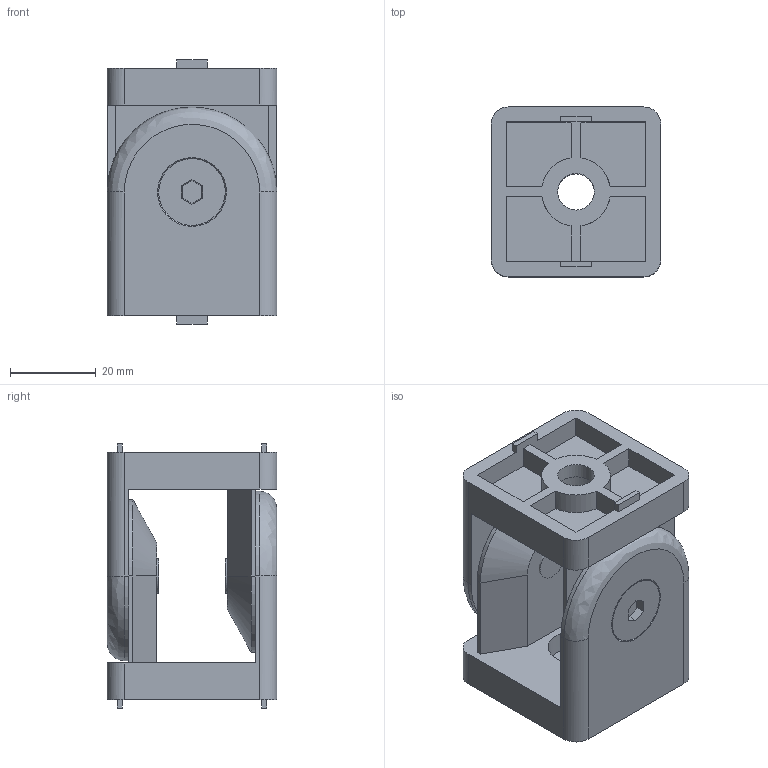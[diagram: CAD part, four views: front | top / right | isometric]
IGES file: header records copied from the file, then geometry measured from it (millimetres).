
Global section: file name: DR_H-ETC4040; native system: Autodesk Inventor 2015; preprocessor: unknown; author: Administrator; date: 20170822.112753; units: millimetre
Bounding box: 39.5 x 39.5 x 61.5 mm (x, y, z)
Volume: 41603.3 mm3; surface area: 23829.6 mm2
Topology: 4 solids, 4 shells, 140 faces, 370 edges, 248 vertices
Faces by surface type: bspline 140
